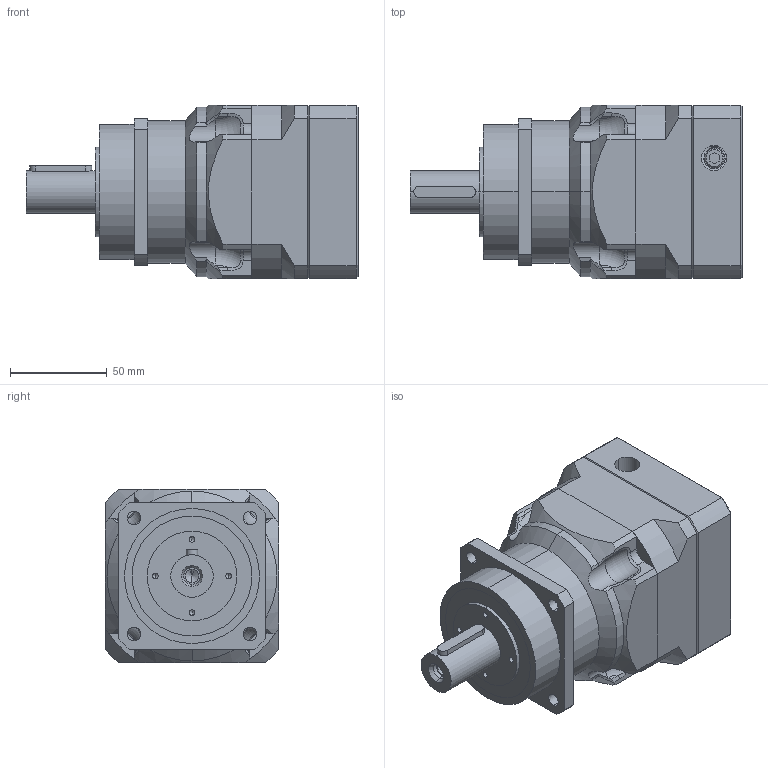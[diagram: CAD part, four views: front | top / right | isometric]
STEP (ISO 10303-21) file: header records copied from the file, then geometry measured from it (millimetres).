
FILE_DESCRIPTION (( 'STEP AP203' ), '1' );
FILE_NAME ('5A3XS.070090.031.STEP', '2018-01-09T11:07:05', ( 'smc' ), ( '' ), 'SwSTEP 2.0', 'SolidWorks 2010', '' );
FILE_SCHEMA (( 'CONFIG_CONTROL_DESIGN' ));
Length unit declared in the file: millimetre
Products named in the file (7): 雙圓鍵-90-115_6x6x32; 螺絲-M5x20L_M5x20L; 5A3XS.070090.031; PUL75本體_PUL75單段-19; PEL90-後蓋-2141C30200_3.成品; 螺絲-M6x16L_M6*16L; PEL90連接板234BC33210_3.成品
Assembly tree (9 placements, depth 2):
  5A3XS.070090.031
    PEL90連接板234BC33210_3.成品
    雙圓鍵-90-115_6x6x32
    螺絲-M5x20L_M5x20L  x4
    螺絲-M6x16L_M6*16L
    PEL90-後蓋-2141C30200_3.成品
    PUL75本體_PUL75單段-19
Bounding box: 172 x 90 x 90 mm (x, y, z)
Volume: 796417.3 mm3; surface area: 122294.3 mm2
Topology: 9 solids, 9 shells, 482 faces, 1169 edges, 732 vertices
Faces by surface type: cylinder 200, plane 169, cone 79, bspline 28, torus 6
Entity records: 15198 total; most frequent: CARTESIAN_POINT 4392, DIRECTION 2081, ORIENTED_EDGE 2054, EDGE_CURVE 1027, AXIS2_PLACEMENT_3D 823, VERTEX_POINT 660, EDGE_LOOP 513, LINE 435
